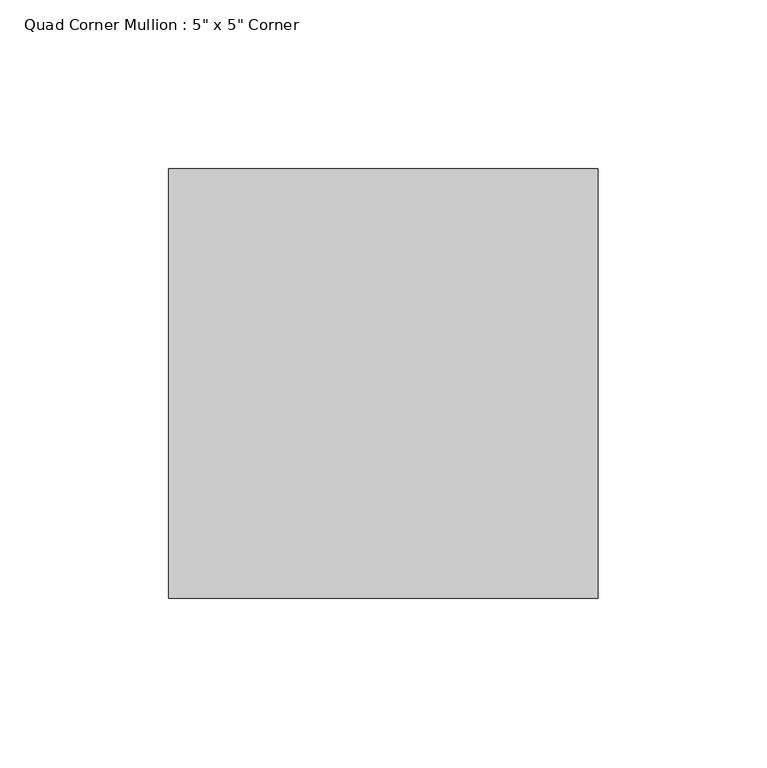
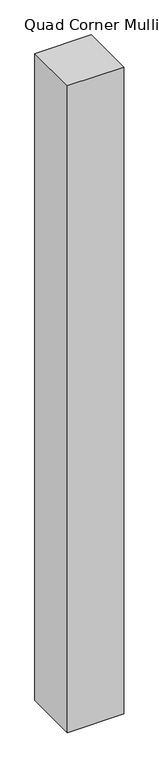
"""IFC4 building model written with IfcOpenShell, lengths in millimetres: member geometry."""

from ifc_helpers import new_model, si_unit, frame, origin, place, context, project, spatial, polyline, outline, extrude, source, transform, mapped, element, save


def member_3cbdf26b(model_context):
    return source(origin(), model_context, "Body", "SweptSolid", [
        extrude(outline(polyline([(76.2, 50.8), (76.2, -76.2), (-50.8, -76.2), (-50.8, 50.8), (76.2, 50.8)])), frame((0.0, 0.0, -1543.05), z_axis=(0.0, 0.0, 1.0), x_axis=(1.0, 0.0, 0.0)), (0.0, 0.0, 1.0), 1543.05),
    ])


if __name__ == "__main__":
    model = new_model("IFC4")
    model_context = context("Model", 3, world=origin())
    ifc_project = project(units=[si_unit("LENGTHUNIT", "METRE", prefix="MILLI")], contexts=[model_context])
    site = spatial("IfcSite", under=ifc_project)
    building = spatial("IfcBuilding", under=site)
    placement = place(None, origin())
    member_shape = member_3cbdf26b(model_context)
    element("IfcMember", 1, ObjectType="Quad Corner Mullion : 5\" x 5\" Corner", at=placement, inside=building, context=model_context, shape_type="MappedRepresentation", body=[
        mapped(member_shape, transform((0.0, 0.0, 0.0), x_axis=(1.0, 0.0, 0.0), y_axis=(0.0, 1.0, 0.0), z_axis=(0.0, 0.0, 1.0))),
    ])
    save(model, "model.ifc")
